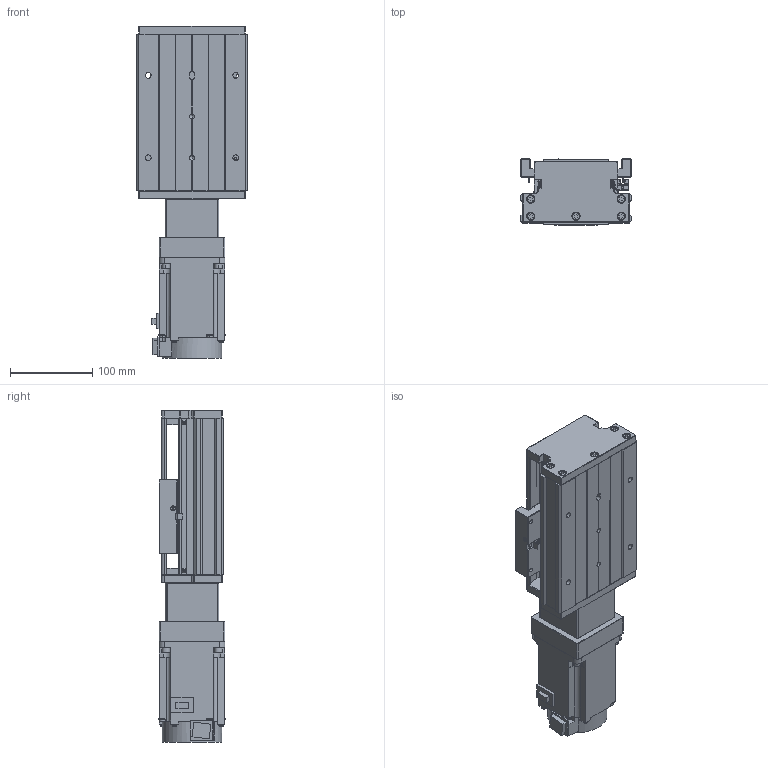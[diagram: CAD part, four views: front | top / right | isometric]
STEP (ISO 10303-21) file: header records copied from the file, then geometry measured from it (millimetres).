
FILE_DESCRIPTION (( 'STEP AP203' ), '1' );
FILE_NAME ('KTH130-50-BC-M75-C4.step', '2023-06-30T04:17:45', ( '微软用户' ), ( '微软中国' ), 'SwSTEP 2.0', 'SolidWorks 2020', '' );
FILE_SCHEMA (( 'CONFIG_CONTROL_DESIGN' ));
Length unit declared in the file: millimetre
Products named in the file (19): CTHA60-016; CTHA86-027-1; KTH130-005; GBT 70.1-M3℅5; hg-kn73j_-s100; GB1155-6X6; GBT77-2000 M3×3; KTH130-50-BC-M75-C4; GBT70.1 M5℅16; す晦芛蹟隊 M3℅5; GBT 70.2-M3¡Á5_M3¡Á6; GBT 70.3-M3℅8; GTH14-001_50; CTHA60-017; CTHA86-006-1_M75; KTH130-002_KTH130-002; EE_SX911P_R; CTHA86-013; KTH130-004
Assembly tree (52 placements, depth 2):
  KTH130-50-BC-M75-C4
    GTH14-001_50
    KTH130-002_KTH130-002
    KTH130-004
    KTH130-005
    GB1155-6X6  x2
    GBT70.1 M5℅16  x10
    GBT 70.2-M3¡Á5_M3¡Á6  x4
    CTHA60-017  x3
    EE_SX911P_R  x3
    CTHA60-016  x2
    GBT 70.1-M3℅5  x6
    GBT77-2000 M3×3  x6
    す晦芛蹟隊 M3℅5  x2
    GBT 70.3-M3℅8  x6
    CTHA86-006-1_M75
    CTHA86-013
    CTHA86-027-1
    hg-kn73j_-s100
Bounding box: 135 x 80.44 x 403.2 mm (x, y, z)
Volume: 2346530.9 mm3; surface area: 361344.2 mm2
Topology: 55 solids, 55 shells, 2230 faces, 5360 edges, 3335 vertices
Faces by surface type: plane 1236, cylinder 598, cone 280, torus 104, sphere 12
Entity records: 39230 total; most frequent: CARTESIAN_POINT 6481, DIRECTION 6431, ORIENTED_EDGE 6004, EDGE_CURVE 3002, AXIS2_PLACEMENT_3D 2221, LINE 1989, VECTOR 1989, VERTEX_POINT 1907
